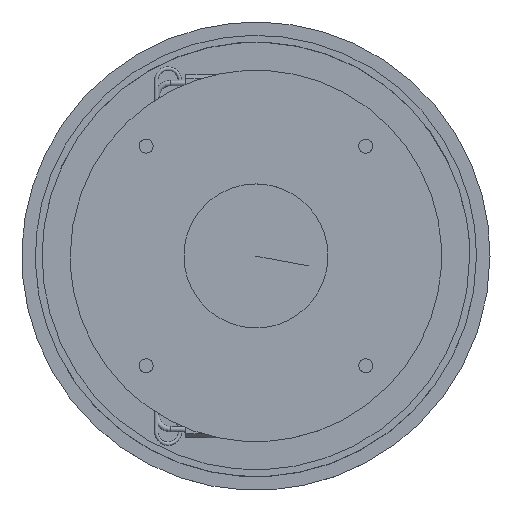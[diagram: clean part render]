
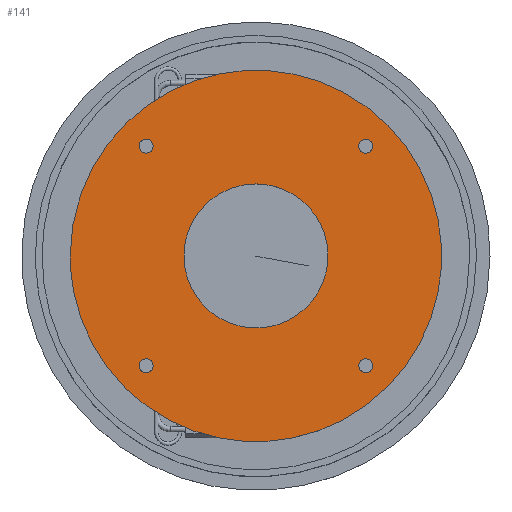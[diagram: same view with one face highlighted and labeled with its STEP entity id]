
A CAD part, top view. The second image highlights one B-rep face of the part: STEP entity #141.
In plain terms, the highlighted planar face has unit normal (0, 0, 1).
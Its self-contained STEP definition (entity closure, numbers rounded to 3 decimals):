
#16=PLANE('',#1743);
#95=FACE_BOUND('',#366,.T.);
#96=FACE_BOUND('',#367,.T.);
#97=FACE_BOUND('',#368,.T.);
#98=FACE_BOUND('',#369,.T.);
#99=FACE_BOUND('',#370,.T.);
#141=ADVANCED_FACE('',(#250,#95,#96,#97,#98,#99),#16,.T.);
#250=FACE_OUTER_BOUND('',#365,.T.);
#365=EDGE_LOOP('',(#582));
#366=EDGE_LOOP('',(#583));
#367=EDGE_LOOP('',(#584));
#368=EDGE_LOOP('',(#585));
#369=EDGE_LOOP('',(#586));
#370=EDGE_LOOP('',(#587));
#582=ORIENTED_EDGE('',*,*,#995,.F.);
#583=ORIENTED_EDGE('',*,*,#998,.F.);
#584=ORIENTED_EDGE('',*,*,#1001,.F.);
#585=ORIENTED_EDGE('',*,*,#1005,.F.);
#586=ORIENTED_EDGE('',*,*,#1008,.F.);
#587=ORIENTED_EDGE('',*,*,#1011,.F.);
#995=EDGE_CURVE('',#1454,#1454,#1227,.T.);
#998=EDGE_CURVE('',#1456,#1456,#1230,.T.);
#1001=EDGE_CURVE('',#1458,#1458,#1233,.T.);
#1005=EDGE_CURVE('',#1461,#1461,#1236,.T.);
#1008=EDGE_CURVE('',#1463,#1463,#1238,.T.);
#1011=EDGE_CURVE('',#1465,#1465,#1240,.T.);
#1227=(
BOUNDED_CURVE()
B_SPLINE_CURVE(2,(#3261,#3262,#3263,#3264,#3265,#3266,#3267,#3268,#3269),
 .UNSPECIFIED.,.T.,.F.)
B_SPLINE_CURVE_WITH_KNOTS((3,2,2,2,3),(0.,129.591,259.181,
388.772,518.363),.UNSPECIFIED.)
CURVE()
GEOMETRIC_REPRESENTATION_ITEM()
RATIONAL_B_SPLINE_CURVE((1.,0.707,1.,0.707,1.,0.707,
1.,0.707,1.))
REPRESENTATION_ITEM('')
);
#1230=(
BOUNDED_CURVE()
B_SPLINE_CURVE(2,(#3281,#3282,#3283,#3284,#3285,#3286,#3287,#3288,#3289),
 .UNSPECIFIED.,.T.,.F.)
B_SPLINE_CURVE_WITH_KNOTS((3,2,2,2,3),(0.,50.265,100.531,
150.796,201.062),.UNSPECIFIED.)
CURVE()
GEOMETRIC_REPRESENTATION_ITEM()
RATIONAL_B_SPLINE_CURVE((1.,0.707,1.,0.707,1.,0.707,
1.,0.707,1.))
REPRESENTATION_ITEM('')
);
#1233=(
BOUNDED_CURVE()
B_SPLINE_CURVE(2,(#3301,#3302,#3303,#3304,#3305,#3306,#3307,#3308,#3309),
 .UNSPECIFIED.,.T.,.F.)
B_SPLINE_CURVE_WITH_KNOTS((3,2,2,2,3),(0.,4.869,9.739,
14.608,19.478),.UNSPECIFIED.)
CURVE()
GEOMETRIC_REPRESENTATION_ITEM()
RATIONAL_B_SPLINE_CURVE((1.,0.707,1.,0.707,1.,0.707,
1.,0.707,1.))
REPRESENTATION_ITEM('')
);
#1236=(
BOUNDED_CURVE()
B_SPLINE_CURVE(2,(#3330,#3331,#3332,#3333,#3334,#3335,#3336,#3337,#3338),
 .UNSPECIFIED.,.T.,.F.)
B_SPLINE_CURVE_WITH_KNOTS((3,2,2,2,3),(0.,4.869,9.739,
14.608,19.478),.UNSPECIFIED.)
CURVE()
GEOMETRIC_REPRESENTATION_ITEM()
RATIONAL_B_SPLINE_CURVE((1.,0.707,1.,0.707,1.,0.707,
1.,0.707,1.))
REPRESENTATION_ITEM('')
);
#1238=(
BOUNDED_CURVE()
B_SPLINE_CURVE(2,(#3350,#3351,#3352,#3353,#3354,#3355,#3356,#3357,#3358),
 .UNSPECIFIED.,.T.,.F.)
B_SPLINE_CURVE_WITH_KNOTS((3,2,2,2,3),(0.,4.869,9.739,
14.608,19.478),.UNSPECIFIED.)
CURVE()
GEOMETRIC_REPRESENTATION_ITEM()
RATIONAL_B_SPLINE_CURVE((1.,0.707,1.,0.707,1.,0.707,
1.,0.707,1.))
REPRESENTATION_ITEM('')
);
#1240=(
BOUNDED_CURVE()
B_SPLINE_CURVE(2,(#3370,#3371,#3372,#3373,#3374,#3375,#3376,#3377,#3378),
 .UNSPECIFIED.,.T.,.F.)
B_SPLINE_CURVE_WITH_KNOTS((3,2,2,2,3),(0.,4.869,9.739,
14.608,19.478),.UNSPECIFIED.)
CURVE()
GEOMETRIC_REPRESENTATION_ITEM()
RATIONAL_B_SPLINE_CURVE((1.,0.707,1.,0.707,1.,0.707,
1.,0.707,1.))
REPRESENTATION_ITEM('')
);
#1454=VERTEX_POINT('',#3249);
#1456=VERTEX_POINT('',#3251);
#1458=VERTEX_POINT('',#3253);
#1461=VERTEX_POINT('',#3256);
#1463=VERTEX_POINT('',#3258);
#1465=VERTEX_POINT('',#3260);
#1743=AXIS2_PLACEMENT_3D('',#3242,#1832,$);
#1832=DIRECTION('',(0.,0.,1.));
#3242=CARTESIAN_POINT('',(103.125,-103.125,56.));
#3249=CARTESIAN_POINT('',(-82.5,0.,56.));
#3251=CARTESIAN_POINT('',(0.,32.,56.));
#3253=CARTESIAN_POINT('',(-46.598,-46.598,56.));
#3256=CARTESIAN_POINT('',(-46.598,46.598,56.));
#3258=CARTESIAN_POINT('',(46.598,46.598,56.));
#3260=CARTESIAN_POINT('',(46.598,-46.598,56.));
#3261=CARTESIAN_POINT('',(-82.5,0.,56.));
#3262=CARTESIAN_POINT('',(-82.5,82.5,56.));
#3263=CARTESIAN_POINT('',(0.,82.5,56.));
#3264=CARTESIAN_POINT('',(82.5,82.5,56.));
#3265=CARTESIAN_POINT('',(82.5,0.,56.));
#3266=CARTESIAN_POINT('',(82.5,-82.5,56.));
#3267=CARTESIAN_POINT('',(0.,-82.5,56.));
#3268=CARTESIAN_POINT('',(-82.5,-82.5,56.));
#3269=CARTESIAN_POINT('',(-82.5,0.,56.));
#3281=CARTESIAN_POINT('',(0.,32.,56.));
#3282=CARTESIAN_POINT('',(-32.,32.,56.));
#3283=CARTESIAN_POINT('',(-32.,0.,56.));
#3284=CARTESIAN_POINT('',(-32.,-32.,56.));
#3285=CARTESIAN_POINT('',(0.,-32.,56.));
#3286=CARTESIAN_POINT('',(32.,-32.,56.));
#3287=CARTESIAN_POINT('',(32.,0.,56.));
#3288=CARTESIAN_POINT('',(32.,32.,56.));
#3289=CARTESIAN_POINT('',(0.,32.,56.));
#3301=CARTESIAN_POINT('',(-46.598,-46.598,56.));
#3302=CARTESIAN_POINT('',(-48.79,-44.406,56.));
#3303=CARTESIAN_POINT('',(-50.982,-46.598,56.));
#3304=CARTESIAN_POINT('',(-53.174,-48.79,56.));
#3305=CARTESIAN_POINT('',(-50.982,-50.982,56.));
#3306=CARTESIAN_POINT('',(-48.79,-53.174,56.));
#3307=CARTESIAN_POINT('',(-46.598,-50.982,56.));
#3308=CARTESIAN_POINT('',(-44.406,-48.79,56.));
#3309=CARTESIAN_POINT('',(-46.598,-46.598,56.));
#3330=CARTESIAN_POINT('',(-46.598,46.598,56.));
#3331=CARTESIAN_POINT('',(-44.406,48.79,56.));
#3332=CARTESIAN_POINT('',(-46.598,50.982,56.));
#3333=CARTESIAN_POINT('',(-48.79,53.174,56.));
#3334=CARTESIAN_POINT('',(-50.982,50.982,56.));
#3335=CARTESIAN_POINT('',(-53.174,48.79,56.));
#3336=CARTESIAN_POINT('',(-50.982,46.598,56.));
#3337=CARTESIAN_POINT('',(-48.79,44.406,56.));
#3338=CARTESIAN_POINT('',(-46.598,46.598,56.));
#3350=CARTESIAN_POINT('',(46.598,46.598,56.));
#3351=CARTESIAN_POINT('',(48.79,44.406,56.));
#3352=CARTESIAN_POINT('',(50.982,46.598,56.));
#3353=CARTESIAN_POINT('',(53.174,48.79,56.));
#3354=CARTESIAN_POINT('',(50.982,50.982,56.));
#3355=CARTESIAN_POINT('',(48.79,53.174,56.));
#3356=CARTESIAN_POINT('',(46.598,50.982,56.));
#3357=CARTESIAN_POINT('',(44.406,48.79,56.));
#3358=CARTESIAN_POINT('',(46.598,46.598,56.));
#3370=CARTESIAN_POINT('',(46.598,-46.598,56.));
#3371=CARTESIAN_POINT('',(44.406,-48.79,56.));
#3372=CARTESIAN_POINT('',(46.598,-50.982,56.));
#3373=CARTESIAN_POINT('',(48.79,-53.174,56.));
#3374=CARTESIAN_POINT('',(50.982,-50.982,56.));
#3375=CARTESIAN_POINT('',(53.174,-48.79,56.));
#3376=CARTESIAN_POINT('',(50.982,-46.598,56.));
#3377=CARTESIAN_POINT('',(48.79,-44.406,56.));
#3378=CARTESIAN_POINT('',(46.598,-46.598,56.));
